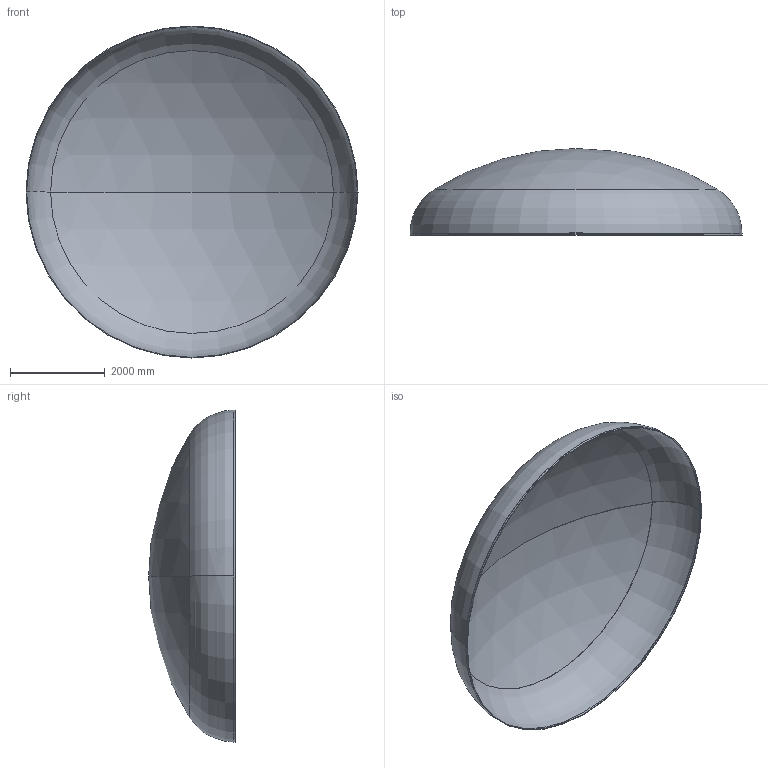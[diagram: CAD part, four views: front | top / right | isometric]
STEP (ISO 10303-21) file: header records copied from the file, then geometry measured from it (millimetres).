
FILE_DESCRIPTION (( 'STEP AP203' ), '1' );
FILE_NAME ('DIN 28013 Korbbogenform_-_Boden DIN 28013 - 7000 x 40 - I - s=13.step', '2016-07-04T10:45:13', ( '' ), ( '' ), 'SwSTEP 2.0', 'SolidWorks 2013', '' );
FILE_SCHEMA (( 'CONFIG_CONTROL_DESIGN' ));
Length unit declared in the file: millimetre
Products named in the file (1): DIN 28013 Korbbogenform_-_Boden DIN 28013 - 7000 x 40 - I - s=13
Bounding box: 7000 x 1827.2 x 7000 mm (x, y, z)
Volume: 702935669.4 mm3; surface area: 108429612.4 mm2
Topology: 1 solids, 1 shells, 13 faces, 24 edges, 14 vertices
Faces by surface type: torus 4, cylinder 4, sphere 4, plane 1
Entity records: 407 total; most frequent: DIRECTION 72, CARTESIAN_POINT 52, ORIENTED_EDGE 48, AXIS2_PLACEMENT_3D 34, EDGE_CURVE 24, CIRCLE 20, EDGE_LOOP 14, VERTEX_POINT 14
